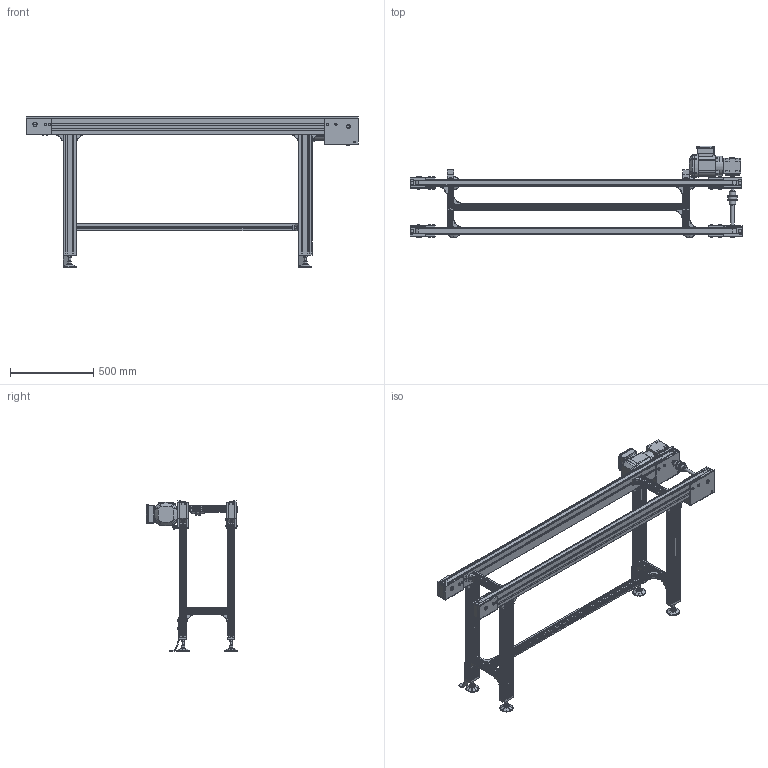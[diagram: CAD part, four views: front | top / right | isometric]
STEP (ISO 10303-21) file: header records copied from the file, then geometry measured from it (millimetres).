
FILE_DESCRIPTION(/* description */ (''),/* implementation_level */ '2;1');
FILE_NAME(/* name */ 'C:\Marketing\01_Versamove-SPU_STEP-Dateien-Homepage\VersamoveStandard\B320\Step-Dateien\Zahnriemenförderer_ZRF-P-2045_B320_L2000.stp',/* time_stamp */ '2016-12-19T12:09:21+01:00',/* author */ ('herbert.engels'),/* organization */ (''),/* preprocessor_version */ 'ST-DEVELOPER v15.6',/* originating_system */ 'Autodesk Inventor 2015',/* authorisation */ '');
FILE_SCHEMA (('CONFIG_CONTROL_DESIGN'));
Products named in the file (1): Zahnriemenförderer_ZRF-P-2045_B320_L2000
Bounding box: 2000 x 550.57 x 905 mm (x, y, z)
Volume: 27951690.7 mm3; surface area: 5700340.6 mm2
Topology: 5 solids, 5 shells, 4909 faces, 13259 edges, 8562 vertices
Faces by surface type: plane 3073, cylinder 1286, cone 361, torus 123, sphere 50, bspline 16
Full cylindrical faces by diameter (mm): 2 x8, 6 x12, 6.647 x8, 7.323 x4, 8 x70, 8.7 x4, 9 x8, 10 x4, 10.066 x1, 11.4 x22, 12 x8, 13 x72, 13.6 x8, 14 x40, 15 x8, 18 x4, 19 x4, 19.77 x4, 20 x13, 25 x1, 25.05 x4, 28 x1, 30 x2, 40 x2, 53 x1, 54 x2, 56 x3, 79 x4, 117 x1
Entity records: 158763 total; most frequent: CARTESIAN_POINT 31590, ORIENTED_EDGE 25214, DIRECTION 24798, EDGE_CURVE 12606, LINE 8404, VECTOR 8404, VERTEX_POINT 8402, AXIS2_PLACEMENT_3D 8197
